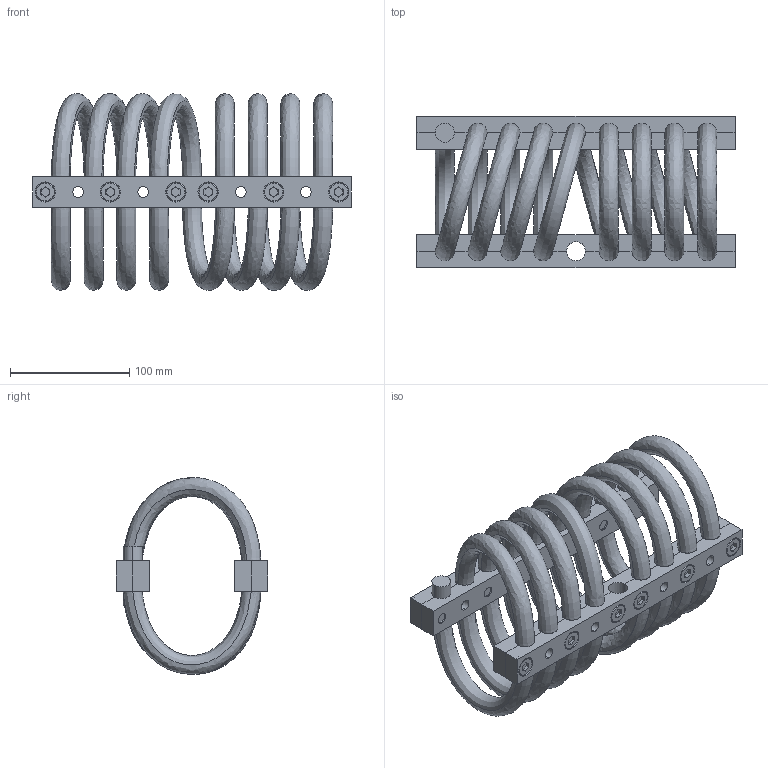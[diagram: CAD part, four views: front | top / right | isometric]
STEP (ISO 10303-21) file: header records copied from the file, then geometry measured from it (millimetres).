
FILE_DESCRIPTION (( 'STEP AP214' ), '1' );
FILE_NAME ('WR20-800-8DM.STEP', '2018-12-07T10:11:22', ( 'user' ), ( 'Microsoft' ), 'SwSTEP 2.0', 'SolidWorks 2016', '' );
FILE_SCHEMA (( 'AUTOMOTIVE_DESIGN' ));
Length unit declared in the file: millimetre
Products named in the file (1): WR20-800-8DM
Bounding box: 266.7 x 127 x 165 mm (x, y, z)
Volume: 962378.4 mm3; surface area: 296309.3 mm2
Topology: 34 solids, 34 shells, 672 faces, 1546 edges, 978 vertices
Faces by surface type: plane 300, cylinder 266, cone 72, bspline 34
Entity records: 35187 total; most frequent: CARTESIAN_POINT 18391, DIRECTION 3188, ORIENTED_EDGE 3092, EDGE_CURVE 1546, AXIS2_PLACEMENT_3D 1167, VERTEX_POINT 978, LINE 854, VECTOR 854
